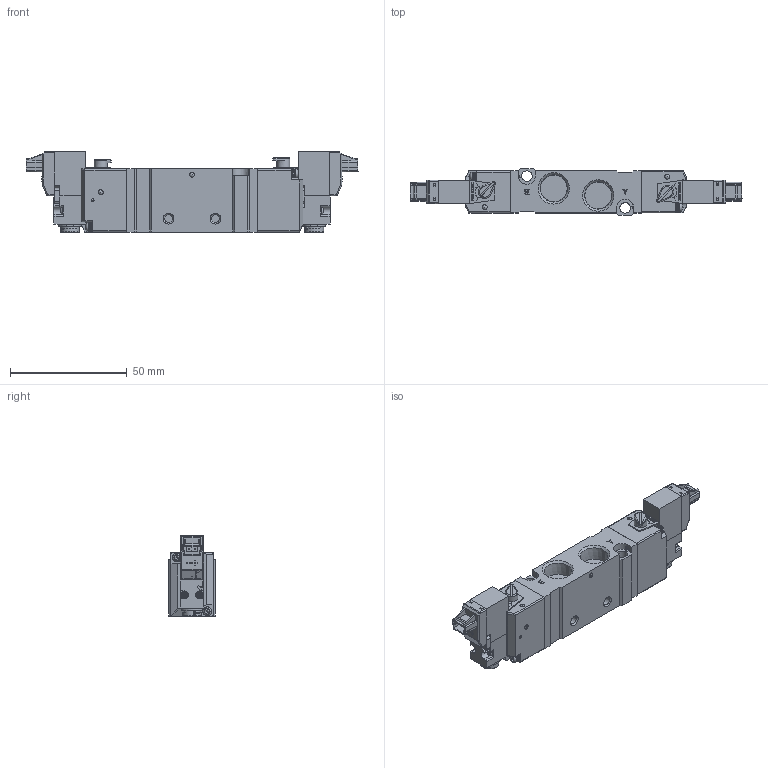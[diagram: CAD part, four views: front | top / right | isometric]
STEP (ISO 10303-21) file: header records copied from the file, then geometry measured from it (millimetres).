
FILE_DESCRIPTION((''),'2;1');
FILE_NAME('W:\技術グループ\Winovation\Winovation Projects\ADEX Valve in-line\ADEX Plus 3D CAD\P2A20RS\P2A20RD25-1P-02_配布用元データ_Shrinkwrap_1.stp','2014-09-24T17:14:39',('HM161442'),(''),'Autodesk Inventor 2013','Autodesk Inventor 2013','');
FILE_SCHEMA(('AUTOMOTIVE_DESIGN { 1 0 10303 214 1 1 1 1 }'));
Length unit declared in the file: millimetre
Products named in the file (1): P2A20RD25-1P-02_配布用元データ_Shrinkwrap_1
Bounding box: 141.9 x 19.8 x 34.6 mm (x, y, z)
Volume: 49026 mm3; surface area: 19138.9 mm2
Topology: 1 solids, 1 shells, 1797 faces, 4710 edges, 2976 vertices
Faces by surface type: plane 1089, cylinder 349, bspline 145, cone 84, torus 66, sphere 64
Full cylindrical faces by diameter (mm): 1.3 x6, 2 x4, 2.1 x4, 2.15 x2, 2.2 x1, 2.7 x2, 2.8 x2, 3.4 x2, 3.5 x6, 3.8 x4, 4.4 x2, 4.5 x4, 5.5 x2, 8 x2, 8.1 x2
Entity records: 62827 total; most frequent: CARTESIAN_POINT 18597, ORIENTED_EDGE 8982, DIRECTION 8386, EDGE_CURVE 4491, VERTEX_POINT 2897, VECTOR 2822, LINE 2822, AXIS2_PLACEMENT_3D 2782
